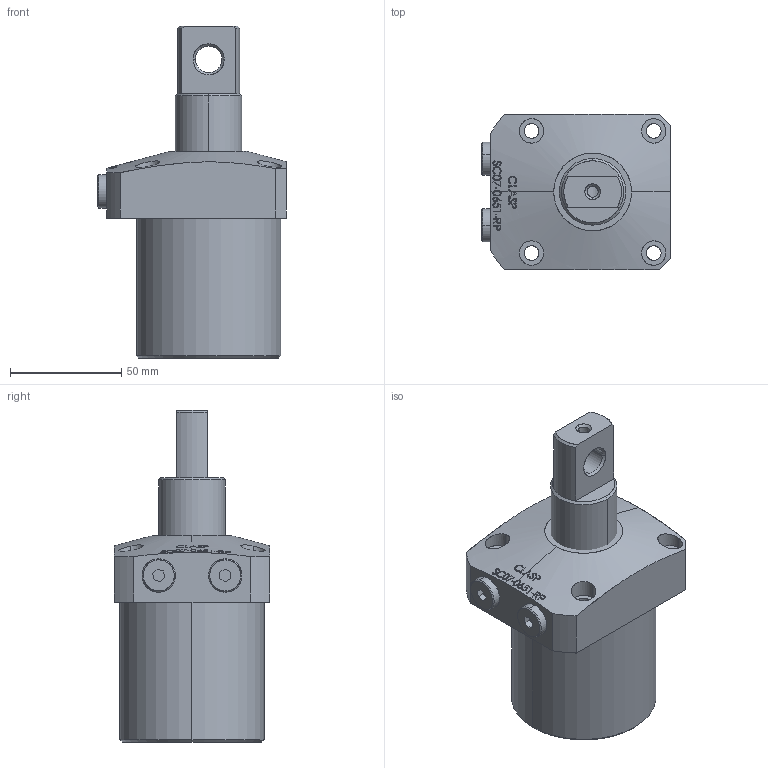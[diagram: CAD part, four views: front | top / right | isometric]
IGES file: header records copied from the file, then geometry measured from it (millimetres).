
Start section: SolidWorks IGES file using analytic representation for surfaces
Global section: file name: D:\karuppas\Clasp\3D model\SWING CYLINDER\Top Mounting swing cylinder-P type\SC07-0651-RP\SC07-0651-RP.IGS; native system: SolidWorks 2017; preprocessor: SolidWorks 2017; author: pc; date: 220708.222533; units: millimetre
Bounding box: 85 x 70 x 149.5 mm (x, y, z)
Surface area: 45003.1 mm2 (no closed solid volume)
Topology: 0 solids, 0 shells, 324 faces, 5738 edges, 5738 vertices
Faces by surface type: bspline 244, revolution 80
